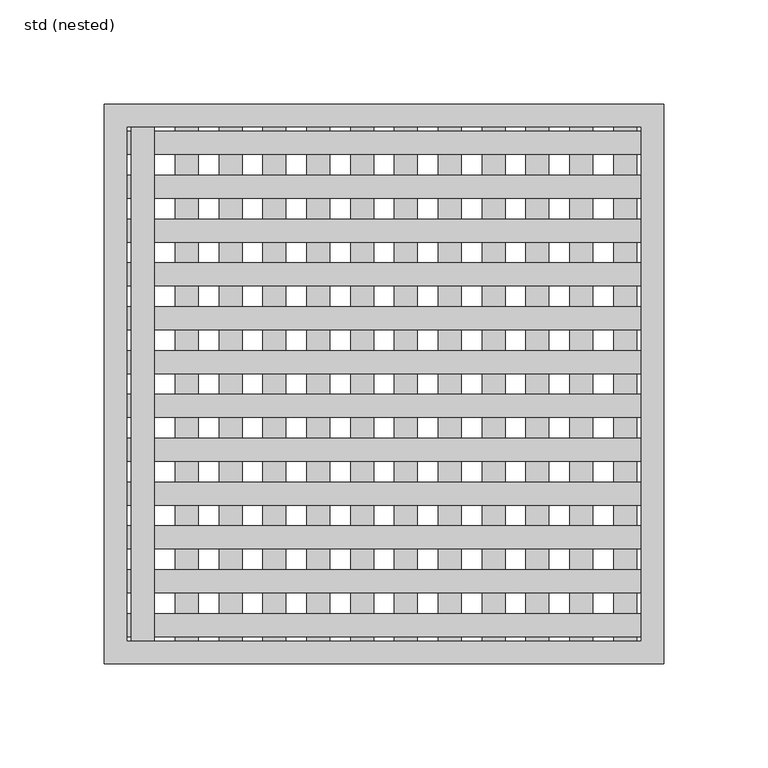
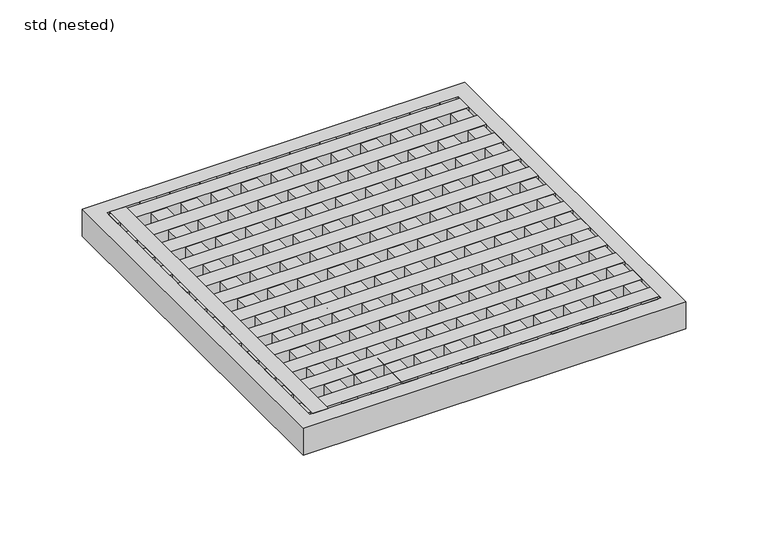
"""IFC4 building model written with IfcOpenShell, lengths in millimetres: sanitary terminal geometry, ZZZ_do not use_PF_ST_UN_square grating for hygienic gully_ACO : std (nested)."""

from ifc_helpers import new_model, si_unit, frame, origin, place, context, project, spatial, polyline, outline, extrude, source, transform, mapped, element, save


def std_nested_cbf8674b(model_context):
    return source(origin(), model_context, "Body", "SweptSolid", [
        extrude(outline(polyline([(-110.0, -123.0), (-121.0, -123.0), (-121.0, 123.0), (-110.0, 123.0), (-110.0, -123.0)])), frame((0.0, 0.0, -20.0), z_axis=(0.0, 0.0, 1.0), x_axis=(1.0, 0.0, 0.0)), (0.0, 0.0, 1.0), 20.0),
        extrude(outline(polyline([(-123.0, -121.0), (-123.0, -110.0), (123.0, -110.0), (123.0, -121.0), (-123.0, -121.0)])), frame((0.0, 0.0, -20.0), z_axis=(0.0, 0.0, 1.0), x_axis=(1.0, 0.0, 0.0)), (0.0, 0.0, 1.0), 20.0),
        extrude(outline(polyline([(-123.0, -100.0), (-123.0, -89.0), (123.0, -89.0), (123.0, -100.0), (-123.0, -100.0)])), frame((0.0, 0.0, -20.0), z_axis=(0.0, 0.0, 1.0), x_axis=(1.0, 0.0, 0.0)), (0.0, 0.0, 1.0), 20.0),
        extrude(outline(polyline([(-123.0, -79.0), (-123.0, -68.0), (123.0, -68.0), (123.0, -79.0), (-123.0, -79.0)])), frame((0.0, 0.0, -20.0), z_axis=(0.0, 0.0, 1.0), x_axis=(1.0, 0.0, 0.0)), (0.0, 0.0, 1.0), 20.0),
        extrude(outline(polyline([(-123.0, -58.0), (-123.0, -47.0), (123.0, -47.0), (123.0, -58.0), (-123.0, -58.0)])), frame((0.0, 0.0, -20.0), z_axis=(0.0, 0.0, 1.0), x_axis=(1.0, 0.0, 0.0)), (0.0, 0.0, 1.0), 20.0),
        extrude(outline(polyline([(-123.0, -37.0), (-123.0, -26.0), (123.0, -26.0), (123.0, -37.0), (-123.0, -37.0)])), frame((0.0, 0.0, -20.0), z_axis=(0.0, 0.0, 1.0), x_axis=(1.0, 0.0, 0.0)), (0.0, 0.0, 1.0), 20.0),
        extrude(outline(polyline([(-123.0, 110.0), (-123.0, 121.0), (123.0, 121.0), (123.0, 110.0), (-123.0, 110.0)])), frame((0.0, 0.0, -20.0), z_axis=(0.0, 0.0, 1.0), x_axis=(1.0, 0.0, 0.0)), (0.0, 0.0, 1.0), 20.0),
        extrude(outline(polyline([(-123.0, 89.0), (-123.0, 100.0), (123.0, 100.0), (123.0, 89.0), (-123.0, 89.0)])), frame((0.0, 0.0, -20.0), z_axis=(0.0, 0.0, 1.0), x_axis=(1.0, 0.0, 0.0)), (0.0, 0.0, 1.0), 20.0),
        extrude(outline(polyline([(-123.0, 68.0), (-123.0, 79.0), (123.0, 79.0), (123.0, 68.0), (-123.0, 68.0)])), frame((0.0, 0.0, -20.0), z_axis=(0.0, 0.0, 1.0), x_axis=(1.0, 0.0, 0.0)), (0.0, 0.0, 1.0), 20.0),
        extrude(outline(polyline([(-123.0, 47.0), (-123.0, 58.0), (123.0, 58.0), (123.0, 47.0), (-123.0, 47.0)])), frame((0.0, 0.0, -20.0), z_axis=(0.0, 0.0, 1.0), x_axis=(1.0, 0.0, 0.0)), (0.0, 0.0, 1.0), 20.0),
        extrude(outline(polyline([(-123.0, 26.0), (-123.0, 37.0), (123.0, 37.0), (123.0, 26.0), (-123.0, 26.0)])), frame((0.0, 0.0, -20.0), z_axis=(0.0, 0.0, 1.0), x_axis=(1.0, 0.0, 0.0)), (0.0, 0.0, 1.0), 20.0),
        extrude(outline(polyline([(-123.0, 5.0), (-123.0, 16.0), (123.0, 16.0), (123.0, 5.0), (-123.0, 5.0)])), frame((0.0, 0.0, -20.0), z_axis=(0.0, 0.0, 1.0), x_axis=(1.0, 0.0, 0.0)), (0.0, 0.0, 1.0), 20.0),
        extrude(outline(polyline([(-123.0, -16.0), (-123.0, -5.0), (123.0, -5.0), (123.0, -16.0), (-123.0, -16.0)])), frame((0.0, 0.0, -20.0), z_axis=(0.0, 0.0, 1.0), x_axis=(1.0, 0.0, 0.0)), (0.0, 0.0, 1.0), 20.0),
        extrude(outline(polyline([(121.0, -123.0), (110.0, -123.0), (110.0, 123.0), (121.0, 123.0), (121.0, -123.0)])), frame((0.0, 0.0, -20.0), z_axis=(0.0, 0.0, 1.0), x_axis=(1.0, 0.0, 0.0)), (0.0, 0.0, 1.0), 20.0),
        extrude(outline(polyline([(-89.0, -123.0), (-100.0, -123.0), (-100.0, 123.0), (-89.0, 123.0), (-89.0, -123.0)])), frame((0.0, 0.0, -20.0), z_axis=(0.0, 0.0, 1.0), x_axis=(1.0, 0.0, 0.0)), (0.0, 0.0, 1.0), 20.0),
        extrude(outline(polyline([(-68.0, -123.0), (-79.0, -123.0), (-79.0, 123.0), (-68.0, 123.0), (-68.0, -123.0)])), frame((0.0, 0.0, -20.0), z_axis=(0.0, 0.0, 1.0), x_axis=(1.0, 0.0, 0.0)), (0.0, 0.0, 1.0), 20.0),
        extrude(outline(polyline([(-47.0, -123.0), (-58.0, -123.0), (-58.0, 123.0), (-47.0, 123.0), (-47.0, -123.0)])), frame((0.0, 0.0, -20.0), z_axis=(0.0, 0.0, 1.0), x_axis=(1.0, 0.0, 0.0)), (0.0, 0.0, 1.0), 20.0),
        extrude(outline(polyline([(-26.0, -123.0), (-37.0, -123.0), (-37.0, 123.0), (-26.0, 123.0), (-26.0, -123.0)])), frame((0.0, 0.0, -20.0), z_axis=(0.0, 0.0, 1.0), x_axis=(1.0, 0.0, 0.0)), (0.0, 0.0, 1.0), 20.0),
        extrude(outline(polyline([(100.0, -123.0), (89.0, -123.0), (89.0, 123.0), (100.0, 123.0), (100.0, -123.0)])), frame((0.0, 0.0, -20.0), z_axis=(0.0, 0.0, 1.0), x_axis=(1.0, 0.0, 0.0)), (0.0, 0.0, 1.0), 20.0),
        extrude(outline(polyline([(79.0, -123.0), (68.0, -123.0), (68.0, 123.0), (79.0, 123.0), (79.0, -123.0)])), frame((0.0, 0.0, -20.0), z_axis=(0.0, 0.0, 1.0), x_axis=(1.0, 0.0, 0.0)), (0.0, 0.0, 1.0), 20.0),
        extrude(outline(polyline([(58.0, -123.0), (47.0, -123.0), (47.0, 123.0), (58.0, 123.0), (58.0, -123.0)])), frame((0.0, 0.0, -20.0), z_axis=(0.0, 0.0, 1.0), x_axis=(1.0, 0.0, 0.0)), (0.0, 0.0, 1.0), 20.0),
        extrude(outline(polyline([(37.0, -123.0), (26.0, -123.0), (26.0, 123.0), (37.0, 123.0), (37.0, -123.0)])), frame((0.0, 0.0, -20.0), z_axis=(0.0, 0.0, 1.0), x_axis=(1.0, 0.0, 0.0)), (0.0, 0.0, 1.0), 20.0),
        extrude(outline(polyline([(-5.0, -123.0), (-16.0, -123.0), (-16.0, 123.0), (-5.0, 123.0), (-5.0, -123.0)])), frame((0.0, 0.0, -20.0), z_axis=(0.0, 0.0, 1.0), x_axis=(1.0, 0.0, 0.0)), (0.0, 0.0, 1.0), 20.0),
        extrude(outline(polyline([(16.0, -123.0), (5.0, -123.0), (5.0, 123.0), (16.0, 123.0), (16.0, -123.0)])), frame((0.0, 0.0, -20.0), z_axis=(0.0, 0.0, 1.0), x_axis=(1.0, 0.0, 0.0)), (0.0, 0.0, 1.0), 20.0),
        extrude(outline(polyline([(134.0, 134.0), (134.0, -134.0), (-134.0, -134.0), (-134.0, 134.0), (134.0, 134.0)]), holes=[polyline([(123.0, 123.0), (-123.0, 123.0), (-123.0, -123.0), (123.0, -123.0), (123.0, 123.0)])]), frame((0.0, 0.0, -20.0), z_axis=(0.0, 0.0, 1.0), x_axis=(1.0, 0.0, 0.0)), (0.0, 0.0, 1.0), 20.0),
    ])


if __name__ == "__main__":
    model = new_model("IFC4")
    model_context = context("Model", 3, world=origin())
    ifc_project = project(units=[si_unit("LENGTHUNIT", "METRE", prefix="MILLI")], contexts=[model_context])
    site = spatial("IfcSite", under=ifc_project)
    building = spatial("IfcBuilding", under=site)
    placement = place(None, origin())
    std_nested_shape = std_nested_cbf8674b(model_context)
    element("IfcSanitaryTerminal", 1, ObjectType="ZZZ_do not use_PF_ST_UN_square grating for hygienic gully_ACO : std (nested)", at=placement, inside=building, context=model_context, shape_type="MappedRepresentation", body=[
        mapped(std_nested_shape, transform((0.0, 0.0, 0.0), x_axis=(1.0, 0.0, 0.0), y_axis=(0.0, 1.0, 0.0), z_axis=(0.0, 0.0, 1.0))),
    ])
    save(model, "model.ifc")
